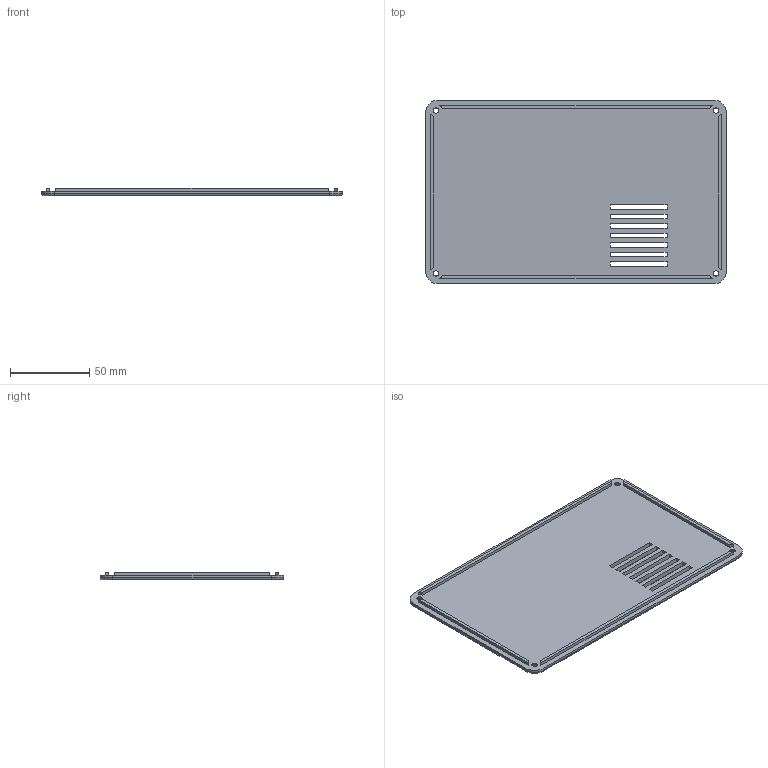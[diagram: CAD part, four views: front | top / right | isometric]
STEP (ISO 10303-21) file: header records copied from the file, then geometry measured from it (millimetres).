
FILE_DESCRIPTION(('Open CASCADE Model'),'2;1');
FILE_NAME('Open CASCADE Shape Model','2026-11-11T15:43:37',('Author'),( 'Open CASCADE'),'Open CASCADE STEP processor 8.0','build123d', 'Unknown');
FILE_SCHEMA(('AUTOMOTIVE_DESIGN { 1 0 10303 214 1 1 1 1 }'));
Length unit declared in the file: millimetre
Products named in the file (2): =>[0:1:1:2]; SOLID
Assembly tree (1 placements, depth 2):
  =>[0:1:1:2]
    SOLID
Bounding box: 190 x 116 x 5 mm (x, y, z)
Volume: 65263.9 mm3; surface area: 47809.2 mm2
Topology: 1 solids, 1 shells, 78 faces, 196 edges, 128 vertices
Faces by surface type: plane 50, cylinder 24, torus 4
Full cylindrical faces by diameter (mm): 3.4 x4, 6.1 x4
Entity records: 4800 total; most frequent: CARTESIAN_POINT 1016, DIRECTION 620, ORIENTED_EDGE 392, PCURVE 392, DEFINITIONAL_REPRESENTATION 392, LINE 324, VECTOR 324, EDGE_CURVE 196
